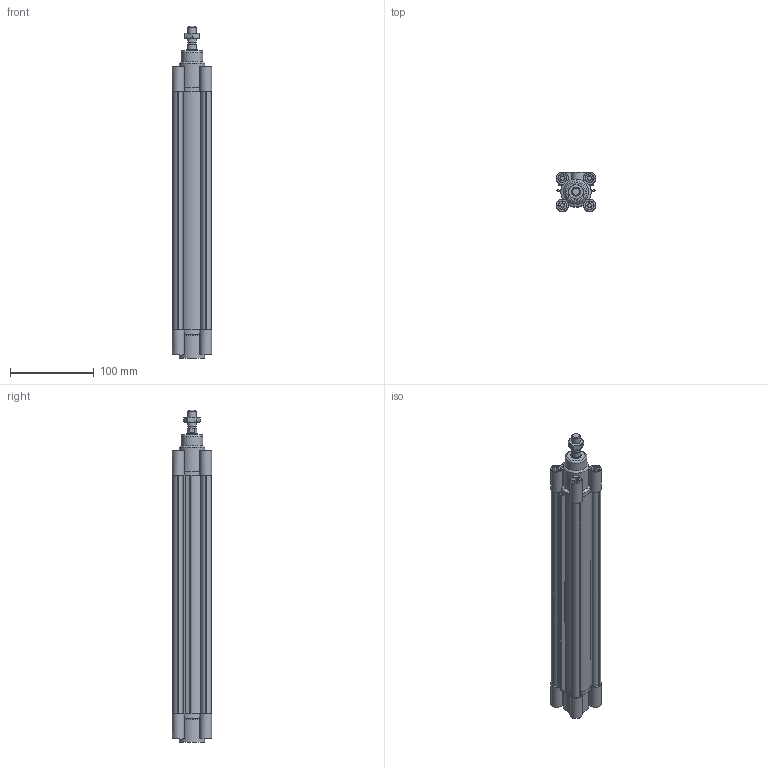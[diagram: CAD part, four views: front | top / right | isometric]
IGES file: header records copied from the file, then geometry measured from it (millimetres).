
Global section: file name: No Iges File Name specified; native system: Autodesk Inventor 2012; preprocessor: AutoDesk Inventor Iges Exporter R2012; author: pilonfr1; date: 20120128.095033; units: millimetre
Bounding box: 47 x 47 x 396.5 mm (x, y, z)
Volume: 319975.5 mm3; surface area: 182504.6 mm2
Topology: 5 solids, 5 shells, 316 faces, 788 edges, 522 vertices
Faces by surface type: plane 200, cylinder 54, revolution 39, cone 22, torus 1
Full cylindrical faces by diameter (mm): 8.8 x1, 10 x9, 11.5 x1, 12 x1, 26 x1, 30 x2, 32 x3
